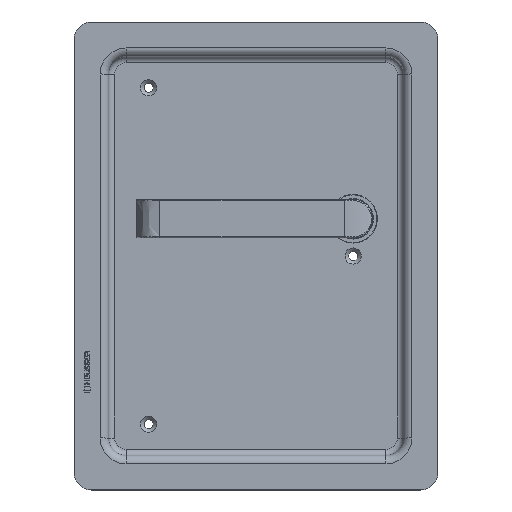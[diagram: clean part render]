
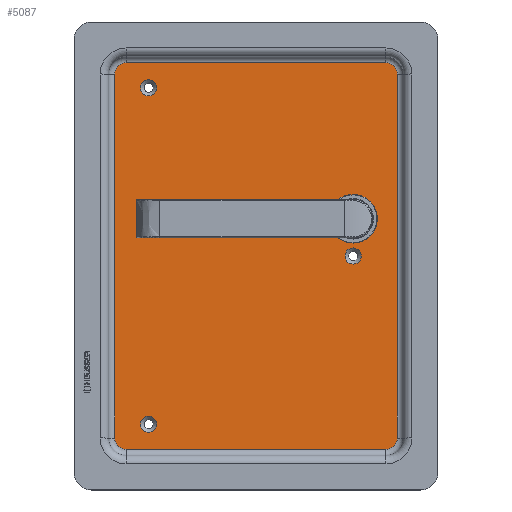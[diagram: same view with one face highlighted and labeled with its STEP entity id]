
A CAD part, top view. The second image highlights one B-rep face of the part: STEP entity #5087.
In plain terms, the highlighted planar face has unit normal (0, 0, 1).
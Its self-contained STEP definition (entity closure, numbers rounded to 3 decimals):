
#334=FACE_BOUND('',#713,.T.);
#335=FACE_BOUND('',#714,.T.);
#336=FACE_BOUND('',#715,.T.);
#337=FACE_BOUND('',#716,.T.);
#410=FACE_OUTER_BOUND('',#712,.T.);
#712=EDGE_LOOP('',(#3230,#3231,#3232,#3233,#3234,#3235,#3236,#3237));
#713=EDGE_LOOP('',(#3238));
#714=EDGE_LOOP('',(#3239));
#715=EDGE_LOOP('',(#3240));
#716=EDGE_LOOP('',(#3241));
#1090=CIRCLE('',#5400,6.5);
#1091=CIRCLE('',#5401,6.5);
#1092=CIRCLE('',#5402,6.5);
#1093=CIRCLE('',#5403,6.5);
#1094=CIRCLE('',#5404,4.65);
#1095=CIRCLE('',#5405,4.65);
#1096=CIRCLE('',#5406,4.65);
#1097=CIRCLE('',#5407,14.);
#1262=LINE('',#7087,#1654);
#1263=LINE('',#7091,#1655);
#1264=LINE('',#7095,#1656);
#1265=LINE('',#7099,#1657);
#1654=VECTOR('',#5833,10.);
#1655=VECTOR('',#5836,10.);
#1656=VECTOR('',#5839,10.);
#1657=VECTOR('',#5842,10.);
#2046=VERTEX_POINT('',#7085);
#2047=VERTEX_POINT('',#7086);
#2048=VERTEX_POINT('',#7088);
#2049=VERTEX_POINT('',#7090);
#2050=VERTEX_POINT('',#7092);
#2051=VERTEX_POINT('',#7094);
#2052=VERTEX_POINT('',#7096);
#2053=VERTEX_POINT('',#7098);
#2054=VERTEX_POINT('',#7101);
#2055=VERTEX_POINT('',#7103);
#2056=VERTEX_POINT('',#7105);
#2057=VERTEX_POINT('',#7107);
#2518=EDGE_CURVE('',#2046,#2047,#1262,.T.);
#2519=EDGE_CURVE('',#2047,#2048,#1090,.T.);
#2520=EDGE_CURVE('',#2048,#2049,#1263,.T.);
#2521=EDGE_CURVE('',#2049,#2050,#1091,.T.);
#2522=EDGE_CURVE('',#2050,#2051,#1264,.T.);
#2523=EDGE_CURVE('',#2051,#2052,#1092,.T.);
#2524=EDGE_CURVE('',#2052,#2053,#1265,.T.);
#2525=EDGE_CURVE('',#2053,#2046,#1093,.T.);
#2526=EDGE_CURVE('',#2054,#2054,#1094,.T.);
#2527=EDGE_CURVE('',#2055,#2055,#1095,.T.);
#2528=EDGE_CURVE('',#2056,#2056,#1096,.T.);
#2529=EDGE_CURVE('',#2057,#2057,#1097,.T.);
#3230=ORIENTED_EDGE('',*,*,#2518,.T.);
#3231=ORIENTED_EDGE('',*,*,#2519,.T.);
#3232=ORIENTED_EDGE('',*,*,#2520,.T.);
#3233=ORIENTED_EDGE('',*,*,#2521,.T.);
#3234=ORIENTED_EDGE('',*,*,#2522,.T.);
#3235=ORIENTED_EDGE('',*,*,#2523,.T.);
#3236=ORIENTED_EDGE('',*,*,#2524,.T.);
#3237=ORIENTED_EDGE('',*,*,#2525,.T.);
#3238=ORIENTED_EDGE('',*,*,#2526,.F.);
#3239=ORIENTED_EDGE('',*,*,#2527,.F.);
#3240=ORIENTED_EDGE('',*,*,#2528,.F.);
#3241=ORIENTED_EDGE('',*,*,#2529,.T.);
#4654=PLANE('',#5399);
#5087=ADVANCED_FACE('',(#410,#334,#335,#336,#337),#4654,.F.);
#5399=AXIS2_PLACEMENT_3D('',#7084,#5831,#5832);
#5400=AXIS2_PLACEMENT_3D('',#7089,#5834,#5835);
#5401=AXIS2_PLACEMENT_3D('',#7093,#5837,#5838);
#5402=AXIS2_PLACEMENT_3D('',#7097,#5840,#5841);
#5403=AXIS2_PLACEMENT_3D('',#7100,#5843,#5844);
#5404=AXIS2_PLACEMENT_3D('',#7102,#5845,#5846);
#5405=AXIS2_PLACEMENT_3D('',#7104,#5847,#5848);
#5406=AXIS2_PLACEMENT_3D('',#7106,#5849,#5850);
#5407=AXIS2_PLACEMENT_3D('',#7108,#5851,#5852);
#5831=DIRECTION('center_axis',(0.,0.,-1.));
#5832=DIRECTION('ref_axis',(-1.,0.,0.));
#5833=DIRECTION('',(1.,0.,0.));
#5834=DIRECTION('center_axis',(0.,0.,1.));
#5835=DIRECTION('ref_axis',(0.707,-0.707,0.));
#5836=DIRECTION('',(0.,1.,0.));
#5837=DIRECTION('center_axis',(0.,0.,1.));
#5838=DIRECTION('ref_axis',(0.707,0.707,0.));
#5839=DIRECTION('',(-1.,0.,0.));
#5840=DIRECTION('center_axis',(0.,0.,1.));
#5841=DIRECTION('ref_axis',(-0.707,0.707,0.));
#5842=DIRECTION('',(0.,-1.,0.));
#5843=DIRECTION('center_axis',(0.,0.,1.));
#5844=DIRECTION('ref_axis',(-0.707,-0.707,0.));
#5845=DIRECTION('center_axis',(0.,0.,1.));
#5846=DIRECTION('ref_axis',(-1.,0.,0.));
#5847=DIRECTION('center_axis',(0.,0.,1.));
#5848=DIRECTION('ref_axis',(-1.,0.,0.));
#5849=DIRECTION('center_axis',(0.,0.,1.));
#5850=DIRECTION('ref_axis',(-1.,0.,0.));
#5851=DIRECTION('center_axis',(0.,0.,
-1.));
#5852=DIRECTION('ref_axis',(-1.,0.002,0.));
#7084=CARTESIAN_POINT('Origin',(314.459,163.666,29.426));
#7085=CARTESIAN_POINT('',(239.459,52.166,29.426));
#7086=CARTESIAN_POINT('',(389.459,52.166,29.426));
#7087=CARTESIAN_POINT('',(276.959,52.166,29.426));
#7088=CARTESIAN_POINT('',(395.959,58.666,29.426));
#7089=CARTESIAN_POINT('Origin',(389.459,58.666,29.426));
#7090=CARTESIAN_POINT('',(395.959,268.666,29.426));
#7091=CARTESIAN_POINT('',(395.959,111.166,29.426));
#7092=CARTESIAN_POINT('',(389.459,275.166,29.426));
#7093=CARTESIAN_POINT('Origin',(389.459,268.666,29.426));
#7094=CARTESIAN_POINT('',(239.459,275.166,29.426));
#7095=CARTESIAN_POINT('',(351.959,275.166,29.426));
#7096=CARTESIAN_POINT('',(232.959,268.666,29.426));
#7097=CARTESIAN_POINT('Origin',(239.459,268.666,29.426));
#7098=CARTESIAN_POINT('',(232.959,58.666,29.426));
#7099=CARTESIAN_POINT('',(232.959,216.166,29.426));
#7100=CARTESIAN_POINT('Origin',(239.459,58.666,29.426));
#7101=CARTESIAN_POINT('',(257.109,260.666,29.426));
#7102=CARTESIAN_POINT('Origin',(252.459,260.666,29.426));
#7103=CARTESIAN_POINT('',(375.109,163.666,29.426));
#7104=CARTESIAN_POINT('Origin',(370.459,163.666,29.426));
#7105=CARTESIAN_POINT('',(257.109,66.666,29.426));
#7106=CARTESIAN_POINT('Origin',(252.459,66.666,29.426));
#7107=CARTESIAN_POINT('',(384.459,185.144,29.426));
#7108=CARTESIAN_POINT('Origin',(370.459,185.166,29.426));
